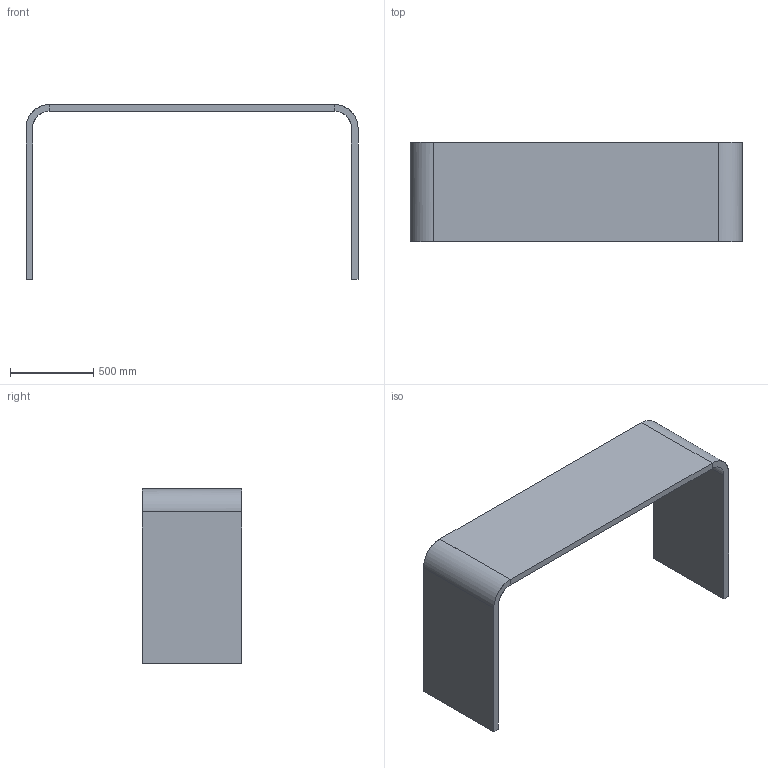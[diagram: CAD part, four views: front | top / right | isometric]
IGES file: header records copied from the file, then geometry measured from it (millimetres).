
Start section: Comment
Global section: file name: M10-4-20.igs; native system:  By UGS Corp.; preprocessor: XPlus GENERIC/IGES 3.0; author: Author; organization: Title; date: 20141218.105921; units: inch
Bounding box: 1996 x 598 x 1050 mm (x, y, z)
Surface area: 5136356.3 mm2 (no closed solid volume)
Topology: 0 solids, 0 shells, 22 faces, 96 edges, 96 vertices
Faces by surface type: bspline 22
